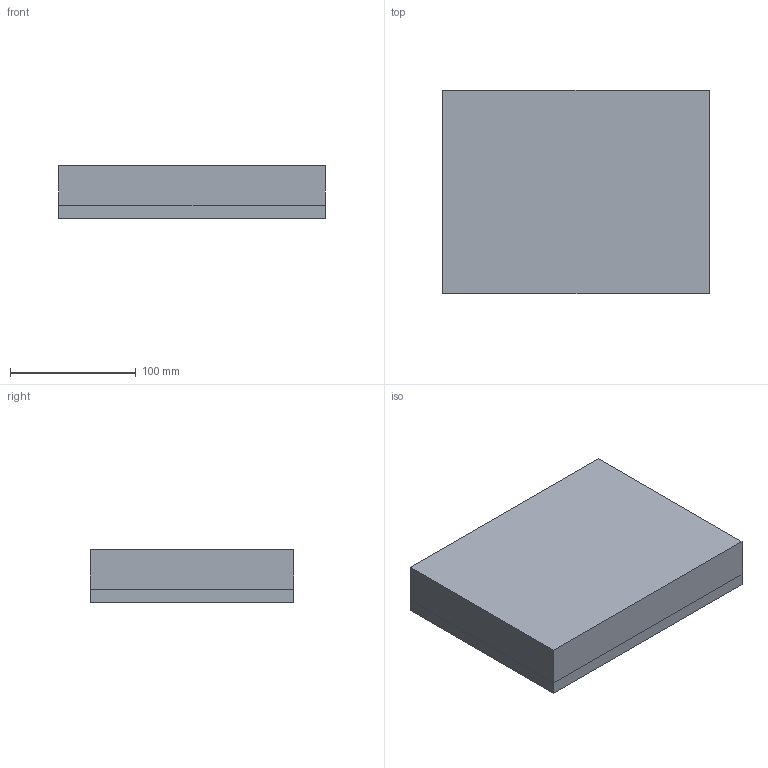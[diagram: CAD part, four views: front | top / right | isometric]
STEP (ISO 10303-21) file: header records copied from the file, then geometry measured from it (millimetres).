
FILE_DESCRIPTION(('CATIA V5 STEP Exchange'),'2;1');
FILE_NAME('C:\_Andres\UNIVERSIDAD\IQS\ASIGNATURAS\DAO\Controles\1920\c2\c2-Ginel_Valero_Eric.stp','2020-02-10T15:38:13+00:00',('none'),('none'),'CATIA Version 5 Release 19 SP 3 (IN-10)','CATIA V5 STEP AP203','none');
FILE_SCHEMA(('CONFIG_CONTROL_DESIGN'));
Length unit declared in the file: millimetre
Products named in the file (1): c2-Ginel_Valero_Eric
Bounding box: 212 x 162 x 42 mm (x, y, z)
Surface area: 249886.2 mm2
Topology: 3 solids, 3 shells, 103 faces, 232 edges, 128 vertices
Faces by surface type: cylinder 40, plane 27, bspline 24, sphere 12
Entity records: 3348 total; most frequent: CARTESIAN_POINT 1636, ORIENTED_EDGE 440, DIRECTION 224, EDGE_CURVE 164, EDGE_LOOP 110, ADVANCED_FACE 103, FACE_OUTER_BOUND 103, AXIS2_PLACEMENT_3D 96
